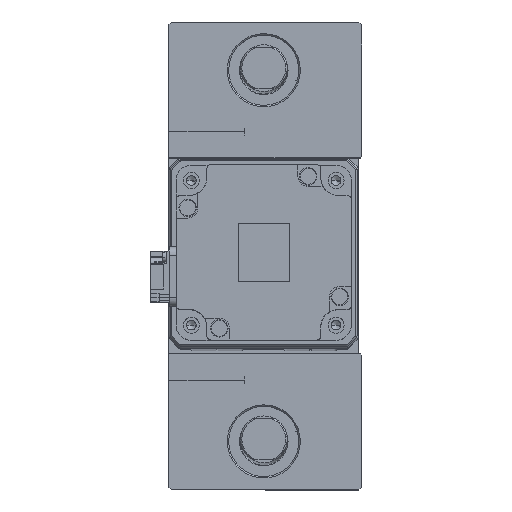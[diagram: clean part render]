
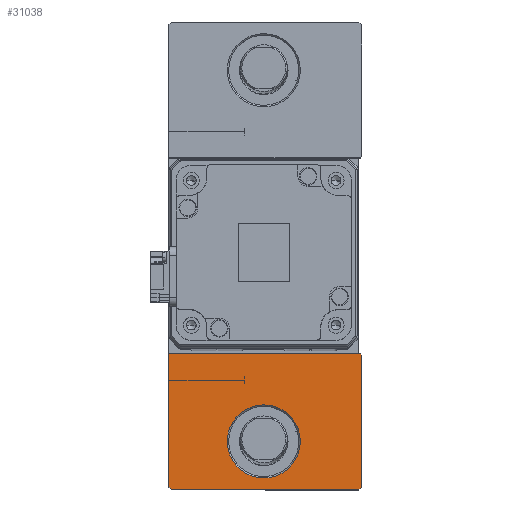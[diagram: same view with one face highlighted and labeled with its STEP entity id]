
A CAD part, top view. The second image highlights one B-rep face of the part: STEP entity #31038.
In plain terms, the highlighted planar face has unit normal (0, 0, 1).
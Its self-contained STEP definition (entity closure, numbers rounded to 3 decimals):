
#1009 = VECTOR ( 'NONE', #16480, 1000. ) ;
#1579 = CARTESIAN_POINT ( 'NONE',  ( 32.5, -80., 25. ) ) ;
#2160 = VERTEX_POINT ( 'NONE', #11808 ) ;
#2231 = DIRECTION ( 'NONE',  ( -0.707, 0.707, 0. ) ) ;
#2840 = CARTESIAN_POINT ( 'NONE',  ( -55.75, -55.75, 25. ) ) ;
#3178 = LINE ( 'NONE', #10984, #33606 ) ;
#3595 = ORIENTED_EDGE ( 'NONE', *, *, #23138, .T. ) ;
#3635 = CARTESIAN_POINT ( 'NONE',  ( 0., -63.5, 25. ) ) ;
#4000 = VECTOR ( 'NONE', #15701, 1000. ) ;
#6375 = CARTESIAN_POINT ( 'NONE',  ( -32.5, -33.5, 25. ) ) ;
#6585 = DIRECTION ( 'NONE',  ( 1., 0., 0. ) ) ;
#7309 = PLANE ( 'NONE',  #20839 ) ;
#7632 = VERTEX_POINT ( 'NONE', #25446 ) ;
#7718 = DIRECTION ( 'NONE',  ( 0., 0., -1. ) ) ;
#7765 = CARTESIAN_POINT ( 'NONE',  ( -32.5, -80., 25. ) ) ;
#8203 = CARTESIAN_POINT ( 'NONE',  ( 56.25, -56.25, 25. ) ) ;
#10898 = LINE ( 'NONE', #18674, #4000 ) ;
#10984 = CARTESIAN_POINT ( 'NONE',  ( -0.25, -0.25, 25. ) ) ;
#11004 = VERTEX_POINT ( 'NONE', #1579 ) ;
#11200 = DIRECTION ( 'NONE',  ( 0.707, 0.707, 0. ) ) ;
#11808 = CARTESIAN_POINT ( 'NONE',  ( 33.5, -79., 25. ) ) ;
#11896 = VERTEX_POINT ( 'NONE', #17542 ) ;
#12328 = CIRCLE ( 'NONE', #29982, 12.5 ) ;
#12698 = EDGE_LOOP ( 'NONE', ( #21913, #20979, #16025, #36136, #16251, #34187, #3595 ) ) ;
#13319 = VECTOR ( 'NONE', #11200, 1000. ) ;
#13560 = VERTEX_POINT ( 'NONE', #6375 ) ;
#13871 = EDGE_LOOP ( 'NONE', ( #36039, #28312 ) ) ;
#13899 = VERTEX_POINT ( 'NONE', #23049 ) ;
#14601 = VECTOR ( 'NONE', #36210, 1000. ) ;
#14823 = CIRCLE ( 'NONE', #26907, 12.5 ) ;
#15010 = EDGE_CURVE ( 'NONE', #37430, #27014, #14823, .T. ) ;
#15701 = DIRECTION ( 'NONE',  ( 0., -1., 0. ) ) ;
#15888 = VERTEX_POINT ( 'NONE', #18552 ) ;
#16025 = ORIENTED_EDGE ( 'NONE', *, *, #19720, .T. ) ;
#16151 = DIRECTION ( 'NONE',  ( 1., 0., 0. ) ) ;
#16251 = ORIENTED_EDGE ( 'NONE', *, *, #21152, .T. ) ;
#16480 = DIRECTION ( 'NONE',  ( 1., 0., 0. ) ) ;
#17510 = EDGE_CURVE ( 'NONE', #27014, #37430, #12328, .T. ) ;
#17542 = CARTESIAN_POINT ( 'NONE',  ( 33., -33.5, 25. ) ) ;
#18304 = FACE_BOUND ( 'NONE', #13871, .T. ) ;
#18468 = CARTESIAN_POINT ( 'NONE',  ( -32.5, -33.5, 25. ) ) ;
#18552 = CARTESIAN_POINT ( 'NONE',  ( -32.5, -79., 25. ) ) ;
#18674 = CARTESIAN_POINT ( 'NONE',  ( -32.5, -33.5, 25. ) ) ;
#18906 = EDGE_CURVE ( 'NONE', #13899, #11004, #24430, .T. ) ;
#19655 = EDGE_CURVE ( 'NONE', #11004, #2160, #22059, .T. ) ;
#19720 = EDGE_CURVE ( 'NONE', #2160, #7632, #26221, .T. ) ;
#20253 = CARTESIAN_POINT ( 'NONE',  ( 33.5, -33.5, 25. ) ) ;
#20839 = AXIS2_PLACEMENT_3D ( 'NONE', #27867, #33893, #16151 ) ;
#20868 = EDGE_CURVE ( 'NONE', #7632, #11896, #3178, .T. ) ;
#20979 = ORIENTED_EDGE ( 'NONE', *, *, #19655, .T. ) ;
#21152 = EDGE_CURVE ( 'NONE', #11896, #13560, #30292, .T. ) ;
#21913 = ORIENTED_EDGE ( 'NONE', *, *, #18906, .T. ) ;
#22059 = LINE ( 'NONE', #8203, #13319 ) ;
#22121 = EDGE_CURVE ( 'NONE', #13560, #15888, #10898, .T. ) ;
#23049 = CARTESIAN_POINT ( 'NONE',  ( -31.5, -80., 25. ) ) ;
#23138 = EDGE_CURVE ( 'NONE', #15888, #13899, #30200, .T. ) ;
#23334 = DIRECTION ( 'NONE',  ( 0.707, -0.707, 0. ) ) ;
#24146 = DIRECTION ( 'NONE',  ( 0., 0., -1. ) ) ;
#24430 = LINE ( 'NONE', #7765, #1009 ) ;
#25298 = VECTOR ( 'NONE', #29163, 1000. ) ;
#25314 = CARTESIAN_POINT ( 'NONE',  ( 0., -63.5, 25. ) ) ;
#25446 = CARTESIAN_POINT ( 'NONE',  ( 33.5, -34., 25. ) ) ;
#26221 = LINE ( 'NONE', #20253, #25298 ) ;
#26907 = AXIS2_PLACEMENT_3D ( 'NONE', #25314, #7718, #28284 ) ;
#27014 = VERTEX_POINT ( 'NONE', #36262 ) ;
#27867 = CARTESIAN_POINT ( 'NONE',  ( 0., 0., 25. ) ) ;
#28284 = DIRECTION ( 'NONE',  ( 1., 0., 0. ) ) ;
#28312 = ORIENTED_EDGE ( 'NONE', *, *, #17510, .T. ) ;
#28495 = CARTESIAN_POINT ( 'NONE',  ( 12.5, -63.5, 25. ) ) ;
#29163 = DIRECTION ( 'NONE',  ( 0., 1., 0. ) ) ;
#29982 = AXIS2_PLACEMENT_3D ( 'NONE', #3635, #24146, #6585 ) ;
#30200 = LINE ( 'NONE', #2840, #37177 ) ;
#30292 = LINE ( 'NONE', #18468, #14601 ) ;
#31038 = ADVANCED_FACE ( 'NONE', ( #18304, #34087 ), #7309, .T. ) ;
#33606 = VECTOR ( 'NONE', #2231, 1000. ) ;
#33893 = DIRECTION ( 'NONE',  ( 0., 0., 1. ) ) ;
#34087 = FACE_OUTER_BOUND ( 'NONE', #12698, .T. ) ;
#34187 = ORIENTED_EDGE ( 'NONE', *, *, #22121, .T. ) ;
#36039 = ORIENTED_EDGE ( 'NONE', *, *, #15010, .T. ) ;
#36136 = ORIENTED_EDGE ( 'NONE', *, *, #20868, .T. ) ;
#36210 = DIRECTION ( 'NONE',  ( -1., 0., 0. ) ) ;
#36262 = CARTESIAN_POINT ( 'NONE',  ( -12.5, -63.5, 25. ) ) ;
#37177 = VECTOR ( 'NONE', #23334, 1000. ) ;
#37430 = VERTEX_POINT ( 'NONE', #28495 ) ;
